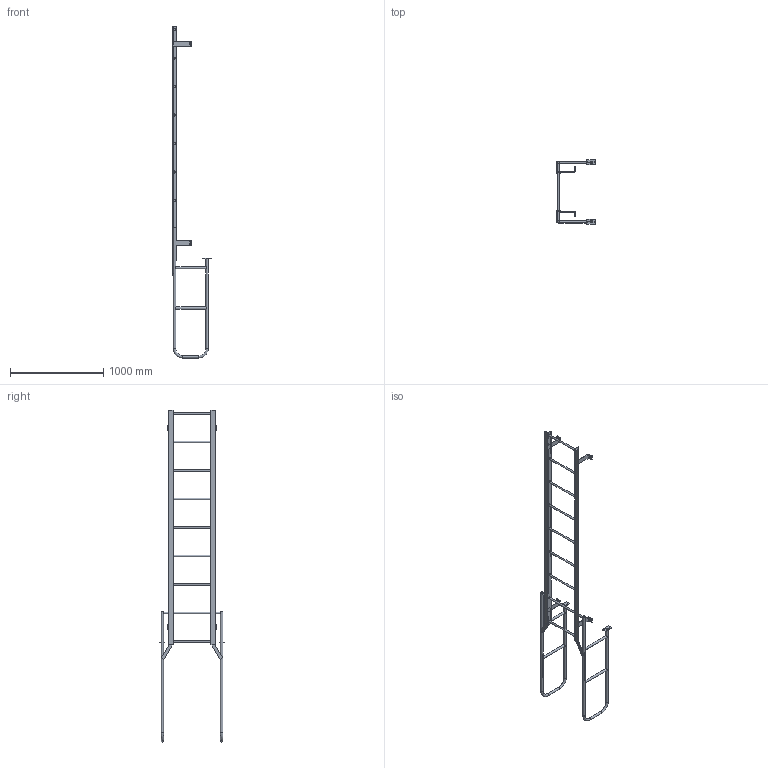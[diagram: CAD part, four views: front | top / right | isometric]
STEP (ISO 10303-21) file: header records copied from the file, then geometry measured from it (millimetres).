
FILE_DESCRIPTION(/* description */ (''),/* implementation_level */ '2;1');
FILE_NAME(/* name */ 'P:\MIKEL & KAREN\3570227 F9W SIMPLIFIED PART.stp',/* time_stamp */ '2018-07-02T15:45:34-04:00',/* author */ ('stephanie'),/* organization */ (''),/* preprocessor_version */ 'ST-DEVELOPER v16.1',/* originating_system */ 'Autodesk Inventor 2016',/* authorisation */ '');
FILE_SCHEMA (('AUTOMOTIVE_DESIGN { 1 0 10303 214 3 1 1 }'));
Length unit declared in the file: centimetre
Products named in the file (1): 3570227 F9W SIMPLIFIED PART
Bounding box: 425.58 x 685.8 x 3552.82 mm (x, y, z)
Volume: 5447173.8 mm3; surface area: 2403273.2 mm2
Topology: 17 solids, 17 shells, 239 faces, 609 edges, 398 vertices
Faces by surface type: plane 123, cylinder 108, torus 8
Full cylindrical faces by diameter (mm): 10.319 x4, 14.287 x4, 19.05 x9, 22.098 x10, 22.225 x18, 25.4 x10
Entity records: 7461 total; most frequent: CARTESIAN_POINT 1530, DIRECTION 1210, ORIENTED_EDGE 1048, EDGE_CURVE 518, AXIS2_PLACEMENT_3D 468, VERTEX_POINT 372, EDGE_LOOP 362, LINE 274
